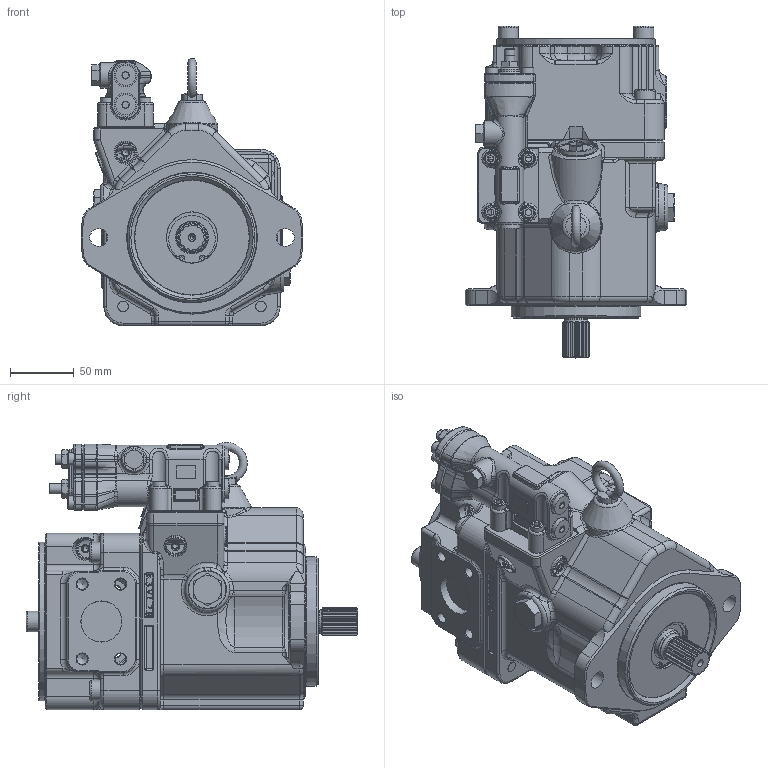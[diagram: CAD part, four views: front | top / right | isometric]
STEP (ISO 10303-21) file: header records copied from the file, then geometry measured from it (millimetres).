
FILE_DESCRIPTION(/* description */ (''),/* implementation_level */ '2;1');
FILE_NAME(/* name */ 'K3VL28_C-1NLSM-L1A.stp',/* time_stamp */ '2026-05-12T10:55:03+01:00',/* author */ ('jhatcher'),/* organization */ (''),/* preprocessor_version */ 'ST-DEVELOPER v20',/* originating_system */ 'Autodesk Inventor 2024',/* authorisation */ '');
FILE_SCHEMA (('AUTOMOTIVE_DESIGN { 1 0 10303 214 3 1 1 }'));
Products named in the file (1): K3VL28_C-1NLS#-L#A
Bounding box: 173.76 x 260 x 209.3 mm (x, y, z)
Volume: 3801883.5 mm3; surface area: 207177.7 mm2
Topology: 1 solids, 1 shells, 6955 faces, 19533 edges, 12698 vertices
Faces by surface type: plane 5578, bspline 525, cylinder 371, cone 304, torus 154, sphere 23
Full cylindrical faces by diameter (mm): 2.5 x2, 3 x1, 4 x2, 6.647 x4, 8 x2, 8.376 x10, 10 x8, 11 x8, 14 x2, 16 x11, 17.5 x4, 18 x6, 19 x1, 20 x1, 21 x2, 25 x1, 30 x3, 32 x1, 34 x1, 40 x2, 42.5 x1, 101.6 x1, 124 x1
Entity records: 240866 total; most frequent: CARTESIAN_POINT 59246, ORIENTED_EDGE 38940, DIRECTION 32362, EDGE_CURVE 19470, LINE 16318, VECTOR 16318, VERTEX_POINT 12698, AXIS2_PLACEMENT_3D 8022
